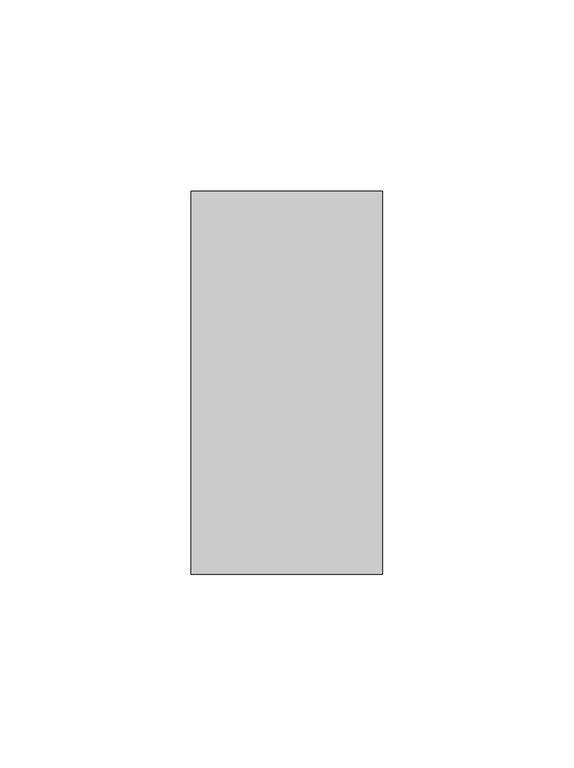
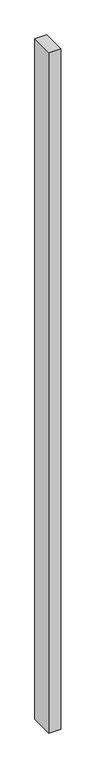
"""IFC4 building model written with IfcOpenShell, lengths in millimetres: member geometry, Прямоугольный импост : 50х100."""

from ifc_helpers import new_model, si_unit, frame, origin, place, context, project, spatial, polyline, outline, extrude, source, transform, mapped, element, save


def member_b6a986cb(model_context):
    return source(origin(), model_context, "Body", "SweptSolid", [
        extrude(outline(polyline([(0.0, 50.0), (0.0, -50.0), (-50.0, -50.0), (-50.0, 50.0), (0.0, 50.0)])), frame((0.0, 0.0, -3000.0), z_axis=(0.0, 0.0, 1.0), x_axis=(1.0, 0.0, 0.0)), (0.0, 0.0, 1.0), 3000.0),
    ])


if __name__ == "__main__":
    model = new_model("IFC4")
    model_context = context("Model", 3, world=origin())
    ifc_project = project(units=[si_unit("LENGTHUNIT", "METRE", prefix="MILLI")], contexts=[model_context])
    site = spatial("IfcSite", under=ifc_project)
    building = spatial("IfcBuilding", under=site)
    placement = place(None, origin())
    member_shape = member_b6a986cb(model_context)
    element("IfcMember", 1, ObjectType="Прямоугольный импост : 50х100", at=placement, inside=building, context=model_context, shape_type="MappedRepresentation", body=[
        mapped(member_shape, transform((0.0, 0.0, 0.0), x_axis=(1.0, 0.0, 0.0), y_axis=(0.0, 1.0, 0.0), z_axis=(0.0, 0.0, 1.0))),
    ])
    save(model, "model.ifc")
